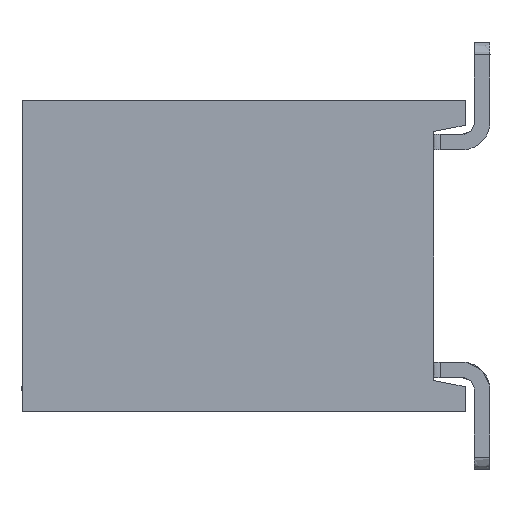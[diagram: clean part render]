
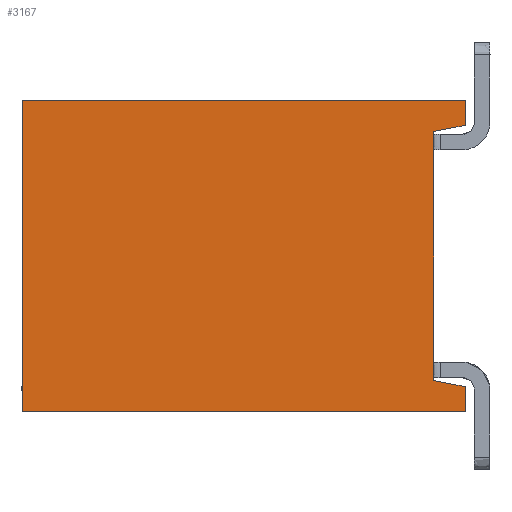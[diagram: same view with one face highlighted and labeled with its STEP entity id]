
A CAD part, left-side view. The second image highlights one B-rep face of the part: STEP entity #3167.
In plain terms, the highlighted planar face has unit normal (-1, 0, 0).
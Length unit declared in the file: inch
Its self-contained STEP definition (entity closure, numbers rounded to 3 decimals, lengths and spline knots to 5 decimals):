
#151 = VERTEX_POINT ( 'NONE', #51724 ) ;
#807 = LINE ( 'NONE', #111004, #32224 ) ;
#1137 = VECTOR ( 'NONE', #136308, 39.37008 ) ;
#3167 = ADVANCED_FACE ( 'NONE', ( #46094 ), #52592, .T. ) ;
#4576 = LINE ( 'NONE', #96178, #32619 ) ;
#7090 = CARTESIAN_POINT ( 'NONE',  ( 0., -0.25984, -0.01988 ) ) ;
#8579 = CARTESIAN_POINT ( 'NONE',  ( 0., -0.27953, -0.18091 ) ) ;
#10756 = VECTOR ( 'NONE', #45968, 39.37008 ) ;
#13475 = CARTESIAN_POINT ( 'NONE',  ( 0., -0.27953, 0. ) ) ;
#15455 = LINE ( 'NONE', #125589, #71546 ) ;
#21065 = CARTESIAN_POINT ( 'NONE',  ( 0., -0.27953, -0.19685 ) ) ;
#21308 = VECTOR ( 'NONE', #132083, 39.37008 ) ;
#21474 = ORIENTED_EDGE ( 'NONE', *, *, #76505, .F. ) ;
#23925 = ORIENTED_EDGE ( 'NONE', *, *, #38169, .T. ) ;
#27921 = LINE ( 'NONE', #135222, #55994 ) ;
#32081 = DIRECTION ( 'NONE',  ( 0., 0., 1. ) ) ;
#32224 = VECTOR ( 'NONE', #58406, 39.37008 ) ;
#32619 = VECTOR ( 'NONE', #32081, 39.37008 ) ;
#38169 = EDGE_CURVE ( 'NONE', #97155, #55838, #807, .T. ) ;
#38788 = LINE ( 'NONE', #98576, #10756 ) ;
#39316 = EDGE_CURVE ( 'NONE', #122758, #56175, #117880, .T. ) ;
#45968 = DIRECTION ( 'NONE',  ( 0., 0.981, 0.196 ) ) ;
#46094 = FACE_OUTER_BOUND ( 'NONE', #121087, .T. ) ;
#46210 = CARTESIAN_POINT ( 'NONE',  ( 0., -0.25984, -0.20079 ) ) ;
#46674 = DIRECTION ( 'NONE',  ( 0., 0., 1. ) ) ;
#48909 = EDGE_CURVE ( 'NONE', #63518, #122758, #38788, .T. ) ;
#51724 = CARTESIAN_POINT ( 'NONE',  ( 0., -0.27953, -0.01594 ) ) ;
#52592 = PLANE ( 'NONE',  #59066 ) ;
#55838 = VERTEX_POINT ( 'NONE', #21065 ) ;
#55994 = VECTOR ( 'NONE', #61822, 39.37008 ) ;
#56175 = VERTEX_POINT ( 'NONE', #7090 ) ;
#58406 = DIRECTION ( 'NONE',  ( 0., -1., 0. ) ) ;
#59066 = AXIS2_PLACEMENT_3D ( 'NONE', #115820, #63214, #137040 ) ;
#61822 = DIRECTION ( 'NONE',  ( 0., -0.981, 0.196 ) ) ;
#63214 = DIRECTION ( 'NONE',  ( -1., 0., 0. ) ) ;
#63518 = VERTEX_POINT ( 'NONE', #8579 ) ;
#65006 = ORIENTED_EDGE ( 'NONE', *, *, #48909, .T. ) ;
#65065 = VECTOR ( 'NONE', #46674, 39.37008 ) ;
#68903 = EDGE_CURVE ( 'NONE', #56175, #151, #27921, .T. ) ;
#71546 = VECTOR ( 'NONE', #136197, 39.37008 ) ;
#76505 = EDGE_CURVE ( 'NONE', #97155, #99930, #4576, .T. ) ;
#78992 = CARTESIAN_POINT ( 'NONE',  ( 0., -0.27953, 0.00394 ) ) ;
#86459 = EDGE_CURVE ( 'NONE', #151, #88300, #112124, .T. ) ;
#88300 = VERTEX_POINT ( 'NONE', #13475 ) ;
#91542 = CARTESIAN_POINT ( 'NONE',  ( 0., 0., 0. ) ) ;
#94196 = ORIENTED_EDGE ( 'NONE', *, *, #68903, .T. ) ;
#96178 = CARTESIAN_POINT ( 'NONE',  ( 0., 0., 0.00394 ) ) ;
#97155 = VERTEX_POINT ( 'NONE', #135900 ) ;
#98576 = CARTESIAN_POINT ( 'NONE',  ( 0., -0.28026, -0.18105 ) ) ;
#99533 = ORIENTED_EDGE ( 'NONE', *, *, #132190, .T. ) ;
#99622 = ORIENTED_EDGE ( 'NONE', *, *, #39316, .T. ) ;
#99762 = ORIENTED_EDGE ( 'NONE', *, *, #103511, .F. ) ;
#99930 = VERTEX_POINT ( 'NONE', #91542 ) ;
#103479 = LINE ( 'NONE', #126175, #1137 ) ;
#103511 = EDGE_CURVE ( 'NONE', #99930, #88300, #103479, .T. ) ;
#111004 = CARTESIAN_POINT ( 'NONE',  ( 0., -0.28512, -0.19685 ) ) ;
#112124 = LINE ( 'NONE', #78992, #21308 ) ;
#115820 = CARTESIAN_POINT ( 'NONE',  ( 0., -0.28512, -0.20079 ) ) ;
#117880 = LINE ( 'NONE', #46210, #65065 ) ;
#121087 = EDGE_LOOP ( 'NONE', ( #65006, #99622, #94196, #122921, #99762, #21474, #23925, #99533 ) ) ;
#122758 = VERTEX_POINT ( 'NONE', #136649 ) ;
#122921 = ORIENTED_EDGE ( 'NONE', *, *, #86459, .T. ) ;
#125589 = CARTESIAN_POINT ( 'NONE',  ( 0., -0.27953, 0.00394 ) ) ;
#126175 = CARTESIAN_POINT ( 'NONE',  ( 0., -0.28512, 0. ) ) ;
#132083 = DIRECTION ( 'NONE',  ( 0., 0., 1. ) ) ;
#132190 = EDGE_CURVE ( 'NONE', #55838, #63518, #15455, .T. ) ;
#135222 = CARTESIAN_POINT ( 'NONE',  ( 0., -0.25984, -0.01988 ) ) ;
#135900 = CARTESIAN_POINT ( 'NONE',  ( 0., 0., -0.19685 ) ) ;
#136197 = DIRECTION ( 'NONE',  ( 0., 0., 1. ) ) ;
#136308 = DIRECTION ( 'NONE',  ( 0., -1., 0. ) ) ;
#136649 = CARTESIAN_POINT ( 'NONE',  ( 0., -0.25984, -0.17697 ) ) ;
#137040 = DIRECTION ( 'NONE',  ( 0., 0., 1. ) ) ;
